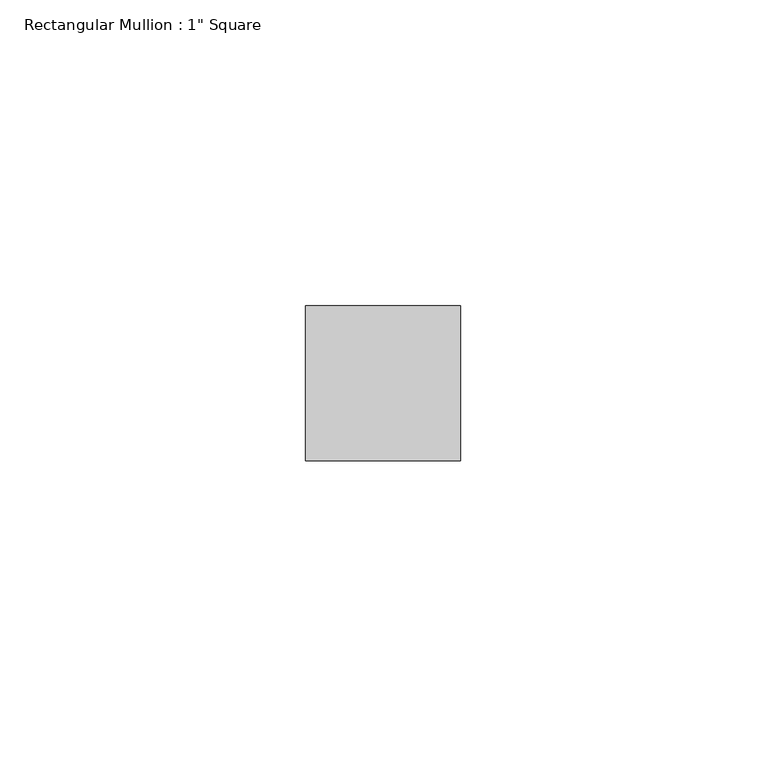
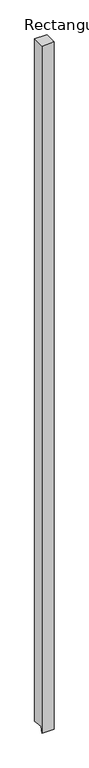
"""IFC4 building model written with IfcOpenShell, lengths in millimetres: member geometry."""

from ifc_helpers import new_model, si_unit, frame, origin, place, context, project, spatial, polyline, outline, extrude, source, transform, mapped, element, save


def member_3d0f16ec(model_context):
    return source(origin(), model_context, "Body", "SweptSolid", [
        extrude(outline(polyline([(-12.7, 0.0), (12.7, 0.0), (12.7, -1487.6713295), (-10.6645783, -1484.1484683), (-12.7, -1497.6479412), (-12.7, 0.0)])), frame((-25.4, 0.0, 0.0), z_axis=(1.0, 0.0, 0.0), x_axis=(0.0, 1.0, 0.0)), (0.0, 0.0, 1.0), 25.4),
    ])


if __name__ == "__main__":
    model = new_model("IFC4")
    model_context = context("Model", 3, world=origin())
    ifc_project = project(units=[si_unit("LENGTHUNIT", "METRE", prefix="MILLI")], contexts=[model_context])
    site = spatial("IfcSite", under=ifc_project)
    building = spatial("IfcBuilding", under=site)
    placement = place(None, origin())
    member_shape = member_3d0f16ec(model_context)
    element("IfcMember", 1, ObjectType="Rectangular Mullion : 1\" Square", at=placement, inside=building, context=model_context, shape_type="MappedRepresentation", body=[
        mapped(member_shape, transform((0.0, 0.0, 0.0), x_axis=(1.0, 0.0, 0.0), y_axis=(0.0, 1.0, 0.0), z_axis=(0.0, 0.0, 1.0))),
    ])
    save(model, "model.ifc")
